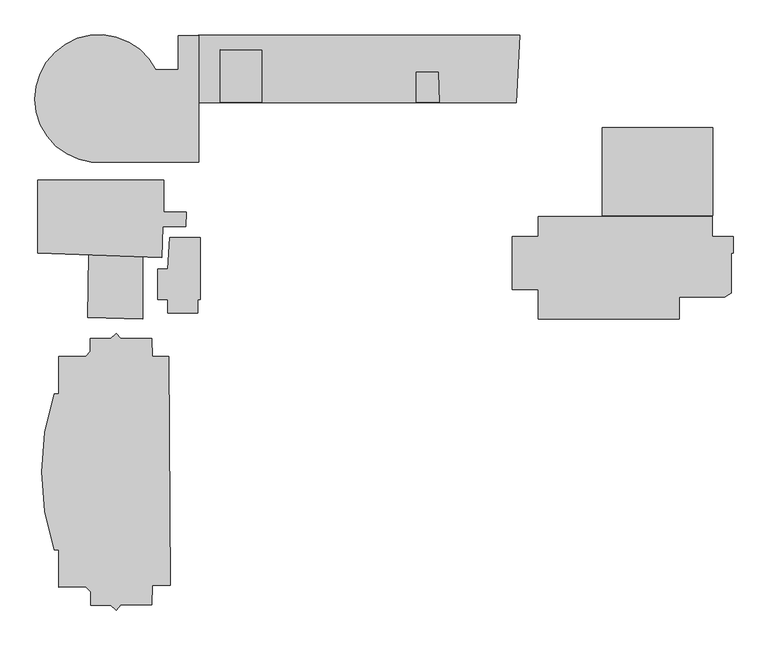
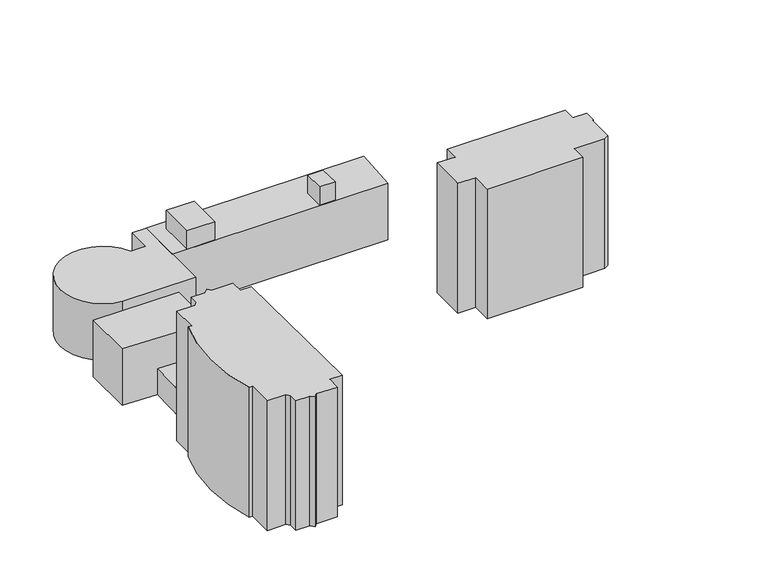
"""IFC4 building model written with IfcOpenShell, lengths in millimetres: geographic element geometry, 建物1 : 建物1."""

from ifc_helpers import new_model, si_unit, point, frame, frame_2d, origin, origin_with_axes, place, context, project, spatial, polyline, circle_curve, trimmed, segment, composite_curve, outline, extrude, source, transform, mapped, element, save


def geographic_element_4dbcac5b(model_context):
    return source(origin(), model_context, "Body", "SweptSolid", [
        extrude(outline(composite_curve([segment(polyline([(-35120.090687, -10160.8663448), (-35035.4752836, -13883.4958234), (-31633.480146, -13868.0658195), (-31296.132104, -60762.3735034), (-34976.2052248, -60749.3475891), (-35063.3921777, -64760.9792478), (-41382.1393661, -64772.2818655), (-42333.0053895, -65802.0502145), (-43444.2287121, -64775.9704138), (-47567.2546896, -64783.3454497), (-47591.5850766, -62071.963128), (-48569.1740783, -61075.1262586), (-54087.2033063, -61121.9711198), (-54102.7073642, -53441.8226432), (-55048.5242305, -53420.4110786)]), True, "CONTINUOUS"), segment(trimmed(circle_curve(frame_2d((-6628.2882642, -37444.1123872)), 50987.8551314), [point((-55048.5242305, -53420.4110786))], [point((-55082.7643463, -21571.9632414))], False, "CARTESIAN"), True, "CONTINUOUS"), segment(polyline([(-55082.7643463, -21571.9632414), (-54140.2680077, -21557.2390185), (-54140.2680077, -13818.8199657), (-48622.19486, -13860.1689683), (-47645.599171, -12862.3589359), (-47623.8481768, -10135.7737281), (-43500.9379959, -10154.222316), (-42390.7371766, -9127.03627), (-41438.8459982, -10160.8663448), (-35120.090687, -10160.8663448)]), True, "CONTINUOUS")], self_intersect=False)), origin_with_axes(), (0.0, 0.0, 1.0), 41400.0),
        extrude(outline(polyline([(-48020.864817, 7056.2501473), (-36887.9339577, 6667.479635), (-36937.6674425, -6221.3484984), (-48154.9141208, -5891.7934029), (-48020.864817, 7056.2501473)])), origin_with_axes(), (0.0, 0.0, 1.0), 8350.0),
        extrude(outline(polyline([(-25175.0400132, 10452.4283899), (-25175.0400132, -2147.5716101), (-25666.8479237, -2147.5716101), (-25666.8479237, -4981.2514295), (-31828.4620879, -4981.2514295), (-31828.4620879, -2147.5716101), (-33856.9095354, -2147.5716101), (-33856.9095354, 4046.3293003), (-31828.4620879, 4046.3293003), (-31375.0400132, 10452.4283899), (-25175.0400132, 10452.4283899)])), origin_with_axes(), (0.0, 0.0, 1.0), 12700.0),
        extrude(outline(polyline([(-58455.8747244, 22295.0154526), (-32644.8400861, 22295.0154526), (-32644.8400861, 15758.5234866), (-28044.8400861, 15758.5234866), (-28148.9436429, 12777.3876656), (-32848.9436429, 12777.3876656), (-33071.3477182, 6408.5682364), (-58455.8747244, 7295.0154526), (-58455.8747244, 22295.0154526)])), origin_with_axes(), (0.0, 0.0, 1.0), 18050.0),
        extrude(outline(polyline([(44039.796347, 10644.3328916), (44039.796347, 14752.8953996), (79639.796347, 14752.8953996), (79639.796347, 10739.3123227), (83887.5856947, 10739.3123227), (83887.5856947, 7330.3207674), (83527.1950826, 7330.3207674), (83527.1950826, -912.8536829), (82173.9502318, -1694.1499618), (72873.9502318, -1694.1499618), (72873.9502318, -6160.8786031), (44010.4144737, -6160.8786031), (44010.4144737, -135.4672413), (38691.2433221, -135.4672413), (38691.2433221, 10644.3328916), (44039.796347, 10644.3328916)])), origin_with_axes(), (0.0, 0.0, 1.0), 41400.0),
        extrude(outline(polyline([(79674.1437912, 32961.9642156), (79674.1437912, 14961.9642156), (57084.0649718, 14961.9642156), (57084.0649718, 32961.9642156), (79674.1437912, 32961.9642156)])), origin_with_axes(), (0.0, 0.0, 1.0), 18050.0),
        extrude(outline(composite_curve([segment(polyline([(-29638.7680974, 51829.800429), (-25443.1680152, 51829.800429), (-25443.1680152, 25945.082434), (-47443.1680152, 25945.082434)]), True, "CONTINUOUS"), segment(trimmed(circle_curve(frame_2d((-45911.3701902, 38944.3648733)), 13089.2226092), [point((-47443.1680152, 25945.082434))], [point((-34219.9461181, 44829.800429))], False, "CARTESIAN"), True, "CONTINUOUS"), segment(polyline([(-34219.9461181, 44829.800429), (-29638.7680974, 44829.800429), (-29638.7680974, 51829.800429)]), True, "CONTINUOUS")], self_intersect=False)), origin_with_axes(), (0.0, 0.0, 1.0), 18050.0),
        extrude(outline(polyline([(-25538.7680974, 51883.6222179), (40229.4956316, 51883.6222179), (39508.3526969, 38123.3953091), (-25538.7680974, 38123.3953091), (-25538.7680974, 51883.6222179)])), origin_with_axes(), (0.0, 0.0, 1.0), 18050.0),
        extrude(outline(polyline([(-12615.9825627, 38220.0950721), (-21060.2408809, 38220.0950721), (-21060.2408809, 49009.740935), (-12615.9825627, 48851.3842108), (-12615.9825627, 38220.0950721)])), frame((0.0, 0.0, 18050.0), z_axis=(0.0, 0.0, 1.0), x_axis=(1.0, 0.0, 0.0)), (0.0, 0.0, 1.0), 5850.0),
        extrude(outline(polyline([(23579.5269666, 44396.7120309), (23794.1338005, 38251.1763799), (19079.5269666, 38251.1763799), (19079.5269666, 44396.7120309), (23579.5269666, 44396.7120309)])), frame((0.0, 0.0, 18050.0), z_axis=(0.0, 0.0, 1.0), x_axis=(1.0, 0.0, 0.0)), (0.0, 0.0, 1.0), 5850.0),
    ])


if __name__ == "__main__":
    model = new_model("IFC4")
    model_context = context("Model", 3, world=origin())
    ifc_project = project(units=[si_unit("LENGTHUNIT", "METRE", prefix="MILLI")], contexts=[model_context])
    site = spatial("IfcSite", under=ifc_project)
    building = spatial("IfcBuilding", under=site)
    placement = place(None, origin())
    geographic_element_shape = geographic_element_4dbcac5b(model_context)
    element("IfcGeographicElement", 1, ObjectType="建物1 : 建物1", at=placement, inside=building, context=model_context, shape_type="MappedRepresentation", body=[
        mapped(geographic_element_shape, transform((0.0, 0.0, 0.0), x_axis=(1.0, 0.0, 0.0), y_axis=(0.0, 1.0, 0.0), z_axis=(0.0, 0.0, 1.0))),
    ])
    save(model, "model.ifc")
